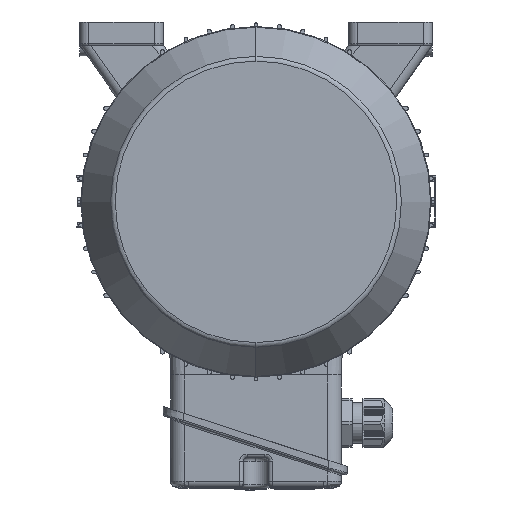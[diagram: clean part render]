
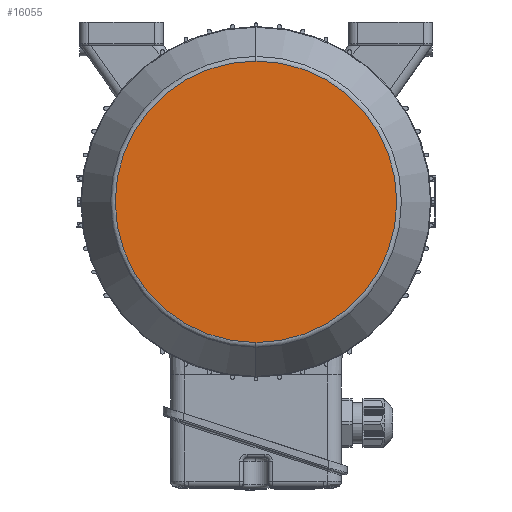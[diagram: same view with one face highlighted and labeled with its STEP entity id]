
A CAD part, left-side view. The second image highlights one B-rep face of the part: STEP entity #16055.
In plain terms, the highlighted planar face has unit normal (-1, 0, 0).
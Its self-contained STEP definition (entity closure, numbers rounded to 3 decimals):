
#2818 = EDGE_CURVE ( 'NONE', #37327, #26486, #8528, .T. ) ;
#5356 = DIRECTION ( 'NONE',  ( 1., 0., 0. ) ) ;
#7773 = CARTESIAN_POINT ( 'NONE',  ( -223.5, 0., 0. ) ) ;
#8081 = DIRECTION ( 'NONE',  ( 1., 0., 0. ) ) ;
#8528 = CIRCLE ( 'NONE', #10385, 78.268 ) ;
#10385 = AXIS2_PLACEMENT_3D ( 'NONE', #40130, #5356, #19040 ) ;
#14920 = DIRECTION ( 'NONE',  ( 0., 1., 0. ) ) ;
#16055 = ADVANCED_FACE ( 'NONE', ( #17685 ), #38922, .T. ) ;
#16555 = AXIS2_PLACEMENT_3D ( 'NONE', #7773, #8081, #25556 ) ;
#17685 = FACE_OUTER_BOUND ( 'NONE', #18654, .T. ) ;
#18587 = DIRECTION ( 'NONE',  ( -1., 0., 0. ) ) ;
#18654 = EDGE_LOOP ( 'NONE', ( #39429, #44687 ) ) ;
#19040 = DIRECTION ( 'NONE',  ( 0., 0., -1. ) ) ;
#21314 = CIRCLE ( 'NONE', #16555, 78.268 ) ;
#25556 = DIRECTION ( 'NONE',  ( 0., 0., -1. ) ) ;
#26486 = VERTEX_POINT ( 'NONE', #42871 ) ;
#27108 = AXIS2_PLACEMENT_3D ( 'NONE', #28915, #18587, #14920 ) ;
#28915 = CARTESIAN_POINT ( 'NONE',  ( -223.5, 0., -78.268 ) ) ;
#30235 = CARTESIAN_POINT ( 'NONE',  ( -223.5, 0., -78.268 ) ) ;
#35134 = EDGE_CURVE ( 'NONE', #26486, #37327, #21314, .T. ) ;
#37327 = VERTEX_POINT ( 'NONE', #30235 ) ;
#38922 = PLANE ( 'NONE',  #27108 ) ;
#39429 = ORIENTED_EDGE ( 'NONE', *, *, #2818, .F. ) ;
#40130 = CARTESIAN_POINT ( 'NONE',  ( -223.5, 0., 0. ) ) ;
#42871 = CARTESIAN_POINT ( 'NONE',  ( -223.5, 0., 78.268 ) ) ;
#44687 = ORIENTED_EDGE ( 'NONE', *, *, #35134, .F. ) ;
